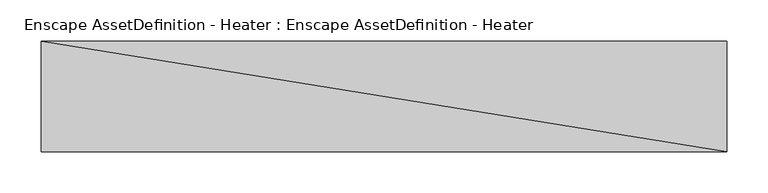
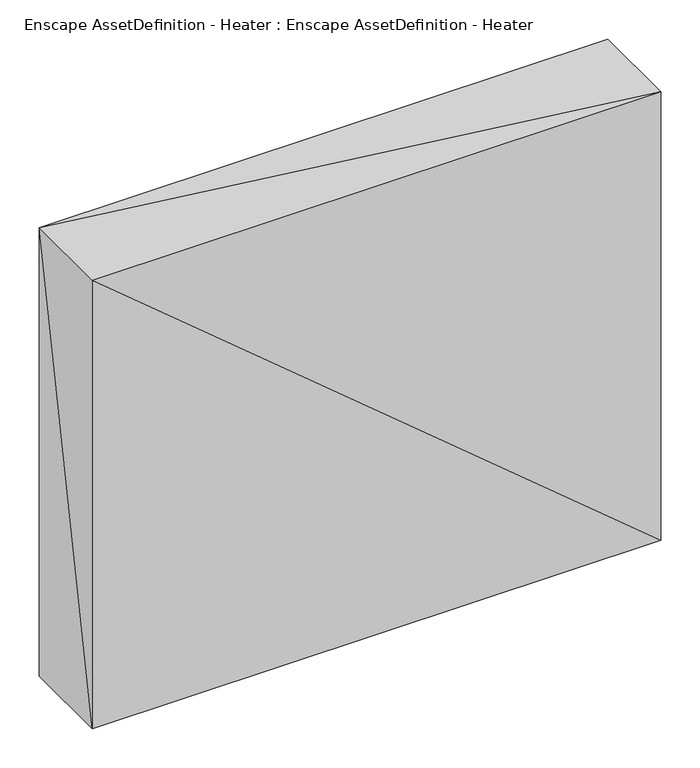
"""IFC4 building model written with IfcOpenShell, lengths in millimetres: geographic element geometry, Enscape AssetDefinition - Heater : Enscape AssetDefinition - Heater."""

from ifc_helpers import new_model, si_unit, origin, place, context, project, spatial, faceted_brep, source, transform, mapped, element, save


def enscape_assetdefinition_heater_enscape_assetdefinition_d009f5ff(model_context):
    return source(origin(), model_context, "Body", "Brep", [
        faceted_brep([(-418.4759855, 0.0, 795.807004), (-418.4759855, -134.2310011, 795.807004), (414.6380126, -134.2310011, 795.807004), (414.6380126, 0.0, 795.807004), (-418.4759855, -134.2310011, 100.612998), (-418.4759855, 0.0, 100.612998), (414.6380126, -134.2310011, 100.612998), (414.6380126, 0.0, 100.612998)], [[[0, 1, 2]], [[0, 2, 3]], [[4, 1, 0]], [[4, 0, 5]], [[6, 2, 1]], [[6, 1, 4]], [[7, 3, 2]], [[7, 2, 6]], [[5, 0, 3]], [[5, 3, 7]], [[6, 4, 5]], [[7, 6, 5]]]),
    ])


if __name__ == "__main__":
    model = new_model("IFC4")
    model_context = context("Model", 3, world=origin())
    ifc_project = project(units=[si_unit("LENGTHUNIT", "METRE", prefix="MILLI")], contexts=[model_context])
    site = spatial("IfcSite", under=ifc_project)
    building = spatial("IfcBuilding", under=site)
    placement = place(None, origin())
    enscape_assetdefinition_heater_enscape_assetdefinition_shape = enscape_assetdefinition_heater_enscape_assetdefinition_d009f5ff(model_context)
    element("IfcGeographicElement", 1, ObjectType="Enscape AssetDefinition - Heater : Enscape AssetDefinition - Heater", at=placement, inside=building, context=model_context, shape_type="MappedRepresentation", body=[
        mapped(enscape_assetdefinition_heater_enscape_assetdefinition_shape, transform((0.0, 0.0, 0.0), x_axis=(1.0, 0.0, 0.0), y_axis=(0.0, 1.0, 0.0), z_axis=(0.0, 0.0, 1.0))),
    ])
    save(model, "model.ifc")
